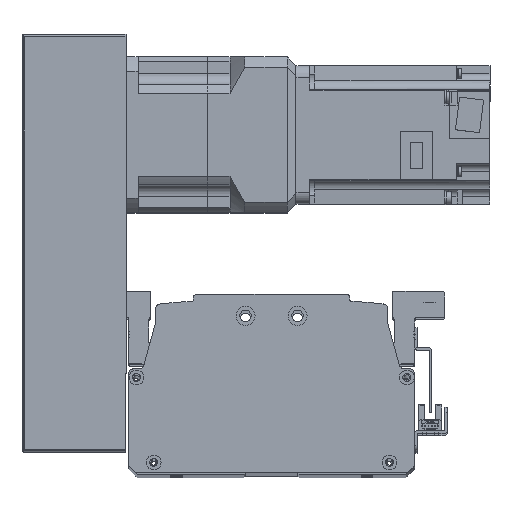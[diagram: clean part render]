
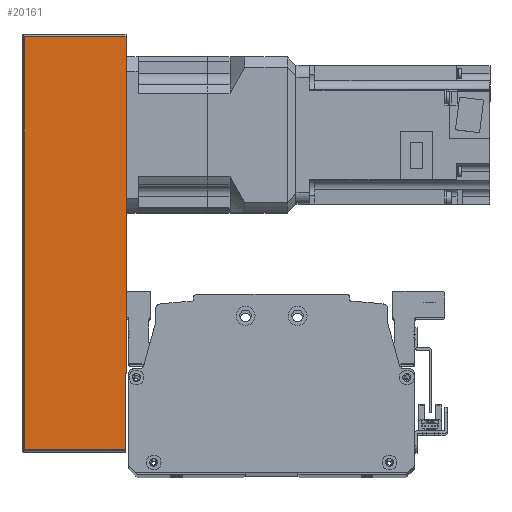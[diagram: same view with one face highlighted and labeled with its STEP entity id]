
A CAD part, top view. The second image highlights one B-rep face of the part: STEP entity #20161.
In plain terms, the highlighted planar face has unit normal (0, 0, 1) as drawn and (0, -1, 0) by its records, which use the part's own axes.
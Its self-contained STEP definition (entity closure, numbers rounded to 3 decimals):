
#599=PLANE('',#21999);
#1720=LINE('',#32395,#3380);
#1743=LINE('',#32482,#3403);
#1744=LINE('',#32490,#3404);
#1752=LINE('',#32516,#3412);
#3380=VECTOR('',#26219,10.);
#3403=VECTOR('',#26330,10.);
#3404=VECTOR('',#26341,10.);
#3412=VECTOR('',#26377,10.);
#5416=FACE_OUTER_BOUND('',#6864,.T.);
#6864=EDGE_LOOP('',(#16390,#16391,#16392,#16393));
#9748=VERTEX_POINT('',#32392);
#9749=VERTEX_POINT('',#32394);
#9769=VERTEX_POINT('',#32478);
#9770=VERTEX_POINT('',#32484);
#12115=EDGE_CURVE('',#9748,#9749,#1720,.T.);
#12160=EDGE_CURVE('',#9749,#9769,#1743,.T.);
#12164=EDGE_CURVE('',#9770,#9748,#1744,.T.);
#12178=EDGE_CURVE('',#9769,#9770,#1752,.T.);
#16390=ORIENTED_EDGE('',*,*,#12160,.F.);
#16391=ORIENTED_EDGE('',*,*,#12115,.F.);
#16392=ORIENTED_EDGE('',*,*,#12164,.F.);
#16393=ORIENTED_EDGE('',*,*,#12178,.F.);
#20161=ADVANCED_FACE('',(#5416),#599,.T.);
#21999=AXIS2_PLACEMENT_3D('',#32521,#26386,#26387);
#26219=DIRECTION('',(1.,0.,0.));
#26330=DIRECTION('',(0.,0.,-1.));
#26341=DIRECTION('',(0.,0.,1.));
#26377=DIRECTION('',(-1.,0.,0.));
#26386=DIRECTION('center_axis',(0.,-1.,0.));
#26387=DIRECTION('ref_axis',(1.,0.,0.));
#32392=CARTESIAN_POINT('',(-119.5,-51.,30.));
#32394=CARTESIAN_POINT('',(119.5,-51.,30.));
#32395=CARTESIAN_POINT('',(120.5,-51.,30.));
#32478=CARTESIAN_POINT('',(119.5,-51.,-29.));
#32482=CARTESIAN_POINT('',(119.5,-51.,0.));
#32484=CARTESIAN_POINT('',(-119.5,-51.,-29.));
#32490=CARTESIAN_POINT('',(-119.5,-51.,0.));
#32516=CARTESIAN_POINT('',(-60.25,-51.,-29.));
#32521=CARTESIAN_POINT('Origin',(-120.5,-51.,0.));
